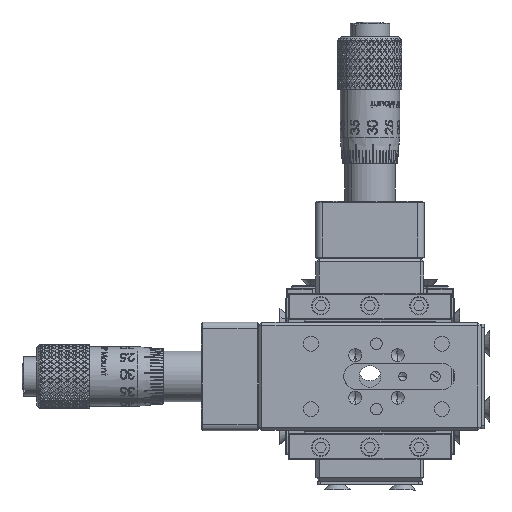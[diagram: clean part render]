
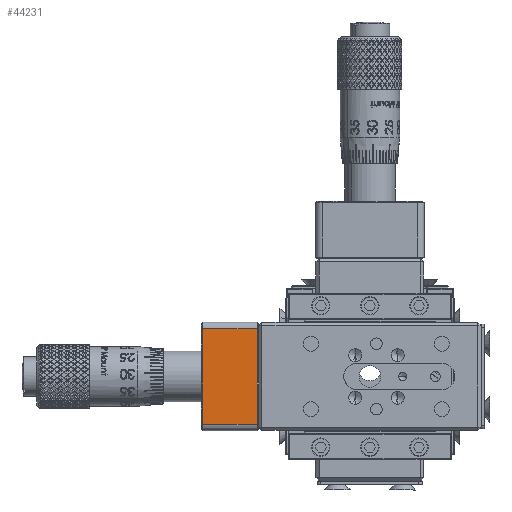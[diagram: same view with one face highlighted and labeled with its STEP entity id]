
A CAD part, front view. The second image highlights one B-rep face of the part: STEP entity #44231.
In plain terms, the highlighted planar face has unit normal (0, -1, 0).
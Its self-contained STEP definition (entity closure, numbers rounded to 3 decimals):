
#5916 = CARTESIAN_POINT ( 'NONE',  ( 0.2, -5.75, 7.3 ) ) ;
#16054 = LINE ( 'NONE', #84166, #159696 ) ;
#21486 = DIRECTION ( 'NONE',  ( -1., 0., 0. ) ) ;
#31761 = EDGE_CURVE ( 'NONE', #141893, #194329, #56324, .T. ) ;
#33196 = ORIENTED_EDGE ( 'NONE', *, *, #125110, .T. ) ;
#44231 = ADVANCED_FACE ( 'NONE', ( #60071 ), #147842, .F. ) ;
#46410 = CARTESIAN_POINT ( 'NONE',  ( 8.6, -5.75, -7.3 ) ) ;
#46761 = CARTESIAN_POINT ( 'NONE',  ( 8.8, -5.75, 7.3 ) ) ;
#52536 = EDGE_LOOP ( 'NONE', ( #163180, #33196, #65989, #206269 ) ) ;
#56324 = LINE ( 'NONE', #61999, #98581 ) ;
#57311 = CARTESIAN_POINT ( 'NONE',  ( 0.2, -5.75, -7.3 ) ) ;
#60071 = FACE_OUTER_BOUND ( 'NONE', #52536, .T. ) ;
#61999 = CARTESIAN_POINT ( 'NONE',  ( 0.2, -5.75, 0. ) ) ;
#64959 = DIRECTION ( 'NONE',  ( -1., 0., 0. ) ) ;
#65989 = ORIENTED_EDGE ( 'NONE', *, *, #207208, .T. ) ;
#84166 = CARTESIAN_POINT ( 'NONE',  ( 8.6, -5.75, 7.3 ) ) ;
#94503 = CARTESIAN_POINT ( 'NONE',  ( 8.6, -5.75, 7.3 ) ) ;
#96708 = CARTESIAN_POINT ( 'NONE',  ( 8.8, -5.75, 0. ) ) ;
#98581 = VECTOR ( 'NONE', #187802, 1000. ) ;
#112319 = LINE ( 'NONE', #147468, #160116 ) ;
#114772 = DIRECTION ( 'NONE',  ( 0., 0., 1. ) ) ;
#119953 = VECTOR ( 'NONE', #64959, 1000. ) ;
#125110 = EDGE_CURVE ( 'NONE', #185344, #180855, #16054, .T. ) ;
#133170 = EDGE_CURVE ( 'NONE', #185344, #194329, #112319, .T. ) ;
#136832 = LINE ( 'NONE', #46761, #119953 ) ;
#137613 = DIRECTION ( 'NONE',  ( 0., 0., 1. ) ) ;
#141893 = VERTEX_POINT ( 'NONE', #5916 ) ;
#147468 = CARTESIAN_POINT ( 'NONE',  ( 8.8, -5.75, -7.3 ) ) ;
#147842 = PLANE ( 'NONE',  #167521 ) ;
#159696 = VECTOR ( 'NONE', #137613, 1000. ) ;
#160116 = VECTOR ( 'NONE', #21486, 1000. ) ;
#163180 = ORIENTED_EDGE ( 'NONE', *, *, #133170, .F. ) ;
#167521 = AXIS2_PLACEMENT_3D ( 'NONE', #96708, #222434, #114772 ) ;
#180855 = VERTEX_POINT ( 'NONE', #94503 ) ;
#185344 = VERTEX_POINT ( 'NONE', #46410 ) ;
#187802 = DIRECTION ( 'NONE',  ( 0., 0., -1. ) ) ;
#194329 = VERTEX_POINT ( 'NONE', #57311 ) ;
#206269 = ORIENTED_EDGE ( 'NONE', *, *, #31761, .T. ) ;
#207208 = EDGE_CURVE ( 'NONE', #180855, #141893, #136832, .T. ) ;
#222434 = DIRECTION ( 'NONE',  ( 0., 1., 0. ) ) ;
